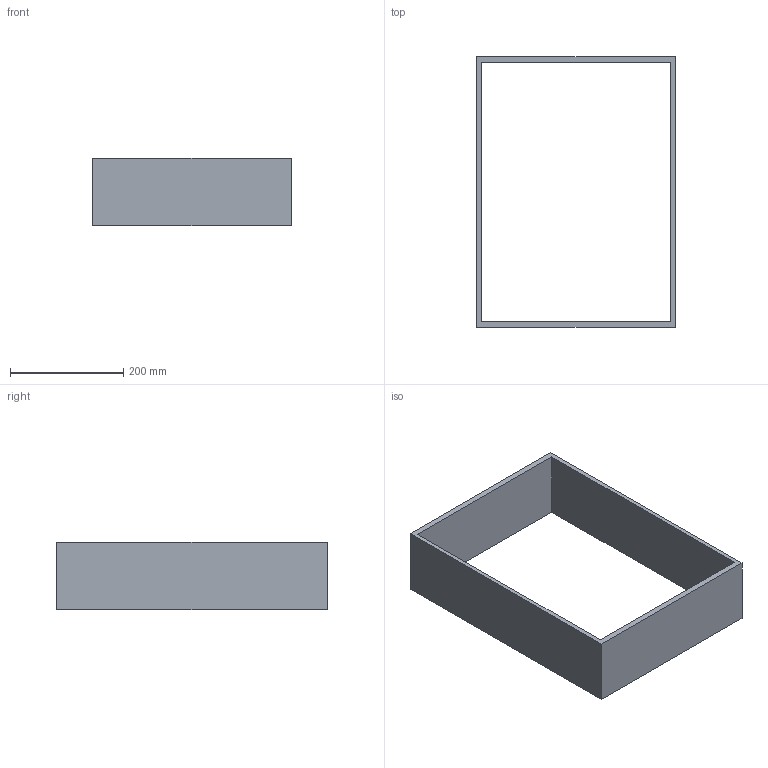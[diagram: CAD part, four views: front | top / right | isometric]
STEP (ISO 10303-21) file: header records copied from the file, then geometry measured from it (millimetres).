
FILE_DESCRIPTION (( 'STEP AP214' ), '1' );
FILE_NAME ('Vario Multi H120 NL500_B450_19 mm_Alu-Alu.step', '2010-10-08T09:48:02', ( 'grass' ), ( '' ), 'SwSTEP 2.0', 'SolidWorks 2010', '' );
FILE_SCHEMA (( 'AUTOMOTIVE_DESIGN' ));
Length unit declared in the file: millimetre
Products named in the file (1): Vario Multi H120 NL500_B450_19 mm_Alu-Alu
Bounding box: 352 x 479 x 120 mm (x, y, z)
Volume: 1806720 mm3; surface area: 419872 mm2
Topology: 1 solids, 1 shells, 10 faces, 24 edges, 16 vertices
Faces by surface type: plane 10
Entity records: 326 total; most frequent: CARTESIAN_POINT 51, ORIENTED_EDGE 48, DIRECTION 46, LINE 24, VECTOR 24, EDGE_CURVE 24, VERTEX_POINT 16, EDGE_LOOP 12
